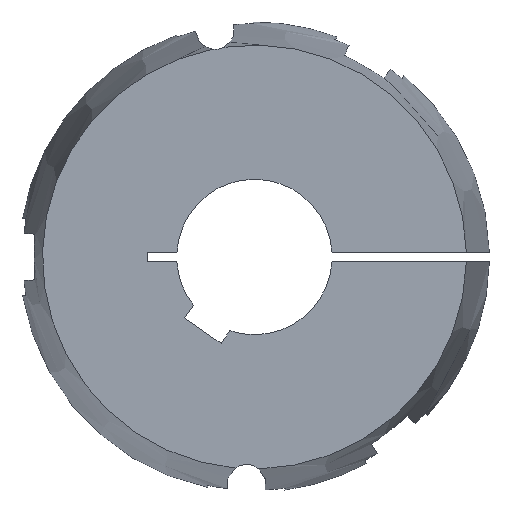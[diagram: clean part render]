
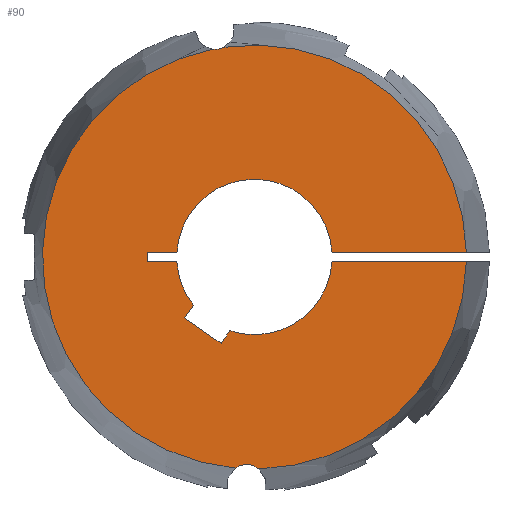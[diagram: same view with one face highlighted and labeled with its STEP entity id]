
A CAD part, left-side view. The second image highlights one B-rep face of the part: STEP entity #90.
In plain terms, the highlighted planar face has unit normal (-1, 0, 0).
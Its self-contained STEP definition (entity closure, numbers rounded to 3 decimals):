
#90 = ADVANCED_FACE( '', ( #140 ), #141, .F. );
#140 = FACE_OUTER_BOUND( '', #208, .T. );
#141 = PLANE( '', #209 );
#208 = EDGE_LOOP( '', ( #369, #370, #371, #372, #373, #374, #375, #376, #377, #378, #379, #380, #381, #382, #383, #384 ) );
#209 = AXIS2_PLACEMENT_3D( '', #385, #386, #387 );
#369 = ORIENTED_EDGE( '', *, *, #548, .F. );
#370 = ORIENTED_EDGE( '', *, *, #601, .F. );
#371 = ORIENTED_EDGE( '', *, *, #570, .T. );
#372 = ORIENTED_EDGE( '', *, *, #583, .T. );
#373 = ORIENTED_EDGE( '', *, *, #581, .T. );
#374 = ORIENTED_EDGE( '', *, *, #578, .T. );
#375 = ORIENTED_EDGE( '', *, *, #587, .T. );
#376 = ORIENTED_EDGE( '', *, *, #602, .T. );
#377 = ORIENTED_EDGE( '', *, *, #603, .T. );
#378 = ORIENTED_EDGE( '', *, *, #604, .T. );
#379 = ORIENTED_EDGE( '', *, *, #605, .T. );
#380 = ORIENTED_EDGE( '', *, *, #606, .T. );
#381 = ORIENTED_EDGE( '', *, *, #572, .T. );
#382 = ORIENTED_EDGE( '', *, *, #607, .F. );
#383 = ORIENTED_EDGE( '', *, *, #551, .F. );
#384 = ORIENTED_EDGE( '', *, *, #608, .F. );
#385 = CARTESIAN_POINT( '', ( -89., 0., 0. ) );
#386 = DIRECTION( '', ( 1., 0., 0. ) );
#387 = DIRECTION( '', ( 0., 1., 0. ) );
#548 = EDGE_CURVE( '', #649, #651, #652, .F. );
#551 = EDGE_CURVE( '', #655, #657, #658, .F. );
#570 = EDGE_CURVE( '', #693, #691, #694, .T. );
#572 = EDGE_CURVE( '', #696, #697, #698, .T. );
#578 = EDGE_CURVE( '', #709, #707, #710, .T. );
#581 = EDGE_CURVE( '', #714, #709, #715, .T. );
#583 = EDGE_CURVE( '', #691, #714, #717, .T. );
#587 = EDGE_CURVE( '', #707, #721, #723, .T. );
#601 = EDGE_CURVE( '', #693, #649, #745, .T. );
#602 = EDGE_CURVE( '', #721, #746, #747, .T. );
#603 = EDGE_CURVE( '', #746, #748, #749, .T. );
#604 = EDGE_CURVE( '', #748, #750, #751, .T. );
#605 = EDGE_CURVE( '', #750, #752, #753, .T. );
#606 = EDGE_CURVE( '', #752, #696, #754, .T. );
#607 = EDGE_CURVE( '', #657, #697, #755, .T. );
#608 = EDGE_CURVE( '', #651, #655, #756, .T. );
#649 = VERTEX_POINT( '', #815 );
#651 = VERTEX_POINT( '', #828 );
#652 = CIRCLE( '', #829, 5.25 );
#655 = VERTEX_POINT( '', #843 );
#657 = VERTEX_POINT( '', #861 );
#658 = CIRCLE( '', #862, 5.25 );
#691 = VERTEX_POINT( '', #935 );
#693 = VERTEX_POINT( '', #938 );
#694 = LINE( '', #939, #940 );
#696 = VERTEX_POINT( '', #948 );
#697 = VERTEX_POINT( '', #949 );
#698 = LINE( '', #950, #951 );
#707 = VERTEX_POINT( '', #969 );
#709 = VERTEX_POINT( '', #972 );
#710 = LINE( '', #973, #974 );
#714 = VERTEX_POINT( '', #980 );
#715 = LINE( '', #981, #982 );
#717 = CIRCLE( '', #985, 21. );
#721 = VERTEX_POINT( '', #990 );
#723 = LINE( '', #993, #994 );
#745 = CIRCLE( '', #1019, 57.277 );
#746 = VERTEX_POINT( '', #1020 );
#747 = CIRCLE( '', #1021, 21. );
#748 = VERTEX_POINT( '', #1022 );
#749 = LINE( '', #1023, #1024 );
#750 = VERTEX_POINT( '', #1025 );
#751 = LINE( '', #1026, #1027 );
#752 = VERTEX_POINT( '', #1028 );
#753 = LINE( '', #1029, #1030 );
#754 = CIRCLE( '', #1031, 21. );
#755 = CIRCLE( '', #1032, 57.277 );
#756 = CIRCLE( '', #1033, 57.277 );
#815 = CARTESIAN_POINT( '', ( -89., -1.169, -57.265 ) );
#828 = CARTESIAN_POINT( '', ( -89., 5.158, -57.044 ) );
#829 = AXIS2_PLACEMENT_3D( '', #1193, #1194, #1195 );
#843 = CARTESIAN_POINT( '', ( -89., 11.362, 56.138 ) );
#861 = CARTESIAN_POINT( '', ( -89., 8.229, 56.682 ) );
#862 = AXIS2_PLACEMENT_3D( '', #1196, #1197, #1198 );
#935 = CARTESIAN_POINT( '', ( -89., -20.963, -1.25 ) );
#938 = CARTESIAN_POINT( '', ( -89., -57.263, -1.25 ) );
#939 = CARTESIAN_POINT( '', ( -89., -63.5, -1.25 ) );
#940 = VECTOR( '', #1228, 1000. );
#948 = CARTESIAN_POINT( '', ( -89., -20.963, 1.25 ) );
#949 = CARTESIAN_POINT( '', ( -89., -57.263, 1.25 ) );
#950 = CARTESIAN_POINT( '', ( -89., 0., 1.25 ) );
#951 = VECTOR( '', #1229, 1000. );
#969 = CARTESIAN_POINT( '', ( -89., 18.853, -16.464 ) );
#972 = CARTESIAN_POINT( '', ( -89., 9.023, -23.347 ) );
#973 = CARTESIAN_POINT( '', ( -89., 9.023, -23.347 ) );
#974 = VECTOR( '', #1234, 1000. );
#980 = CARTESIAN_POINT( '', ( -89., 6.628, -19.927 ) );
#981 = CARTESIAN_POINT( '', ( -89., 6.628, -19.927 ) );
#982 = VECTOR( '', #1237, 1000. );
#985 = AXIS2_PLACEMENT_3D( '', #1239, #1240, #1241 );
#990 = CARTESIAN_POINT( '', ( -89., 16.458, -13.044 ) );
#993 = CARTESIAN_POINT( '', ( -89., 18.853, -16.464 ) );
#994 = VECTOR( '', #1247, 1000. );
#1019 = AXIS2_PLACEMENT_3D( '', #1281, #1282, #1283 );
#1020 = CARTESIAN_POINT( '', ( -89., 20.963, -1.25 ) );
#1021 = AXIS2_PLACEMENT_3D( '', #1284, #1285, #1286 );
#1022 = CARTESIAN_POINT( '', ( -89., 29., -1.25 ) );
#1023 = CARTESIAN_POINT( '', ( -89., 0., -1.25 ) );
#1024 = VECTOR( '', #1287, 1000. );
#1025 = CARTESIAN_POINT( '', ( -89., 29., 1.25 ) );
#1026 = CARTESIAN_POINT( '', ( -89., 29., -1.25 ) );
#1027 = VECTOR( '', #1288, 1000. );
#1028 = CARTESIAN_POINT( '', ( -89., 20.963, 1.25 ) );
#1029 = CARTESIAN_POINT( '', ( -89., 29., 1.25 ) );
#1030 = VECTOR( '', #1289, 1000. );
#1031 = AXIS2_PLACEMENT_3D( '', #1290, #1291, #1292 );
#1032 = AXIS2_PLACEMENT_3D( '', #1293, #1294, #1295 );
#1033 = AXIS2_PLACEMENT_3D( '', #1296, #1297, #1298 );
#1193 = CARTESIAN_POINT( '', ( -89., 2.141, -61.34 ) );
#1194 = DIRECTION( '', ( 1., 0., 0. ) );
#1195 = DIRECTION( '', ( 0., 1., 0. ) );
#1196 = CARTESIAN_POINT( '', ( -89., 10.652, 61.34 ) );
#1197 = DIRECTION( '', ( 1., 0., 0. ) );
#1198 = DIRECTION( '', ( 0., 1., 0. ) );
#1228 = DIRECTION( '', ( 0., 1., 0. ) );
#1229 = DIRECTION( '', ( 0., -1., 0. ) );
#1234 = DIRECTION( '', ( 0., 0.819, 0.574 ) );
#1237 = DIRECTION( '', ( 0., 0.574, -0.819 ) );
#1239 = CARTESIAN_POINT( '', ( -89., 0., 0. ) );
#1240 = DIRECTION( '', ( 1., 0., 0. ) );
#1241 = DIRECTION( '', ( 0., 0., -1. ) );
#1247 = DIRECTION( '', ( 0., -0.574, 0.819 ) );
#1281 = CARTESIAN_POINT( '', ( -89., 0., 0. ) );
#1282 = DIRECTION( '', ( 1., 0., 0. ) );
#1283 = DIRECTION( '', ( 0., 1., 0. ) );
#1284 = CARTESIAN_POINT( '', ( -89., 0., 0. ) );
#1285 = DIRECTION( '', ( 1., 0., 0. ) );
#1286 = DIRECTION( '', ( 0., 0., -1. ) );
#1287 = DIRECTION( '', ( 0., 1., 0. ) );
#1288 = DIRECTION( '', ( 0., 0., 1. ) );
#1289 = DIRECTION( '', ( 0., -1., 0. ) );
#1290 = CARTESIAN_POINT( '', ( -89., 0., 0. ) );
#1291 = DIRECTION( '', ( 1., 0., 0. ) );
#1292 = DIRECTION( '', ( 0., 0., -1. ) );
#1293 = CARTESIAN_POINT( '', ( -89., 0., 0. ) );
#1294 = DIRECTION( '', ( 1., 0., 0. ) );
#1295 = DIRECTION( '', ( 0., 1., 0. ) );
#1296 = CARTESIAN_POINT( '', ( -89., 0., 0. ) );
#1297 = DIRECTION( '', ( 1., 0., 0. ) );
#1298 = DIRECTION( '', ( 0., 1., 0. ) );
